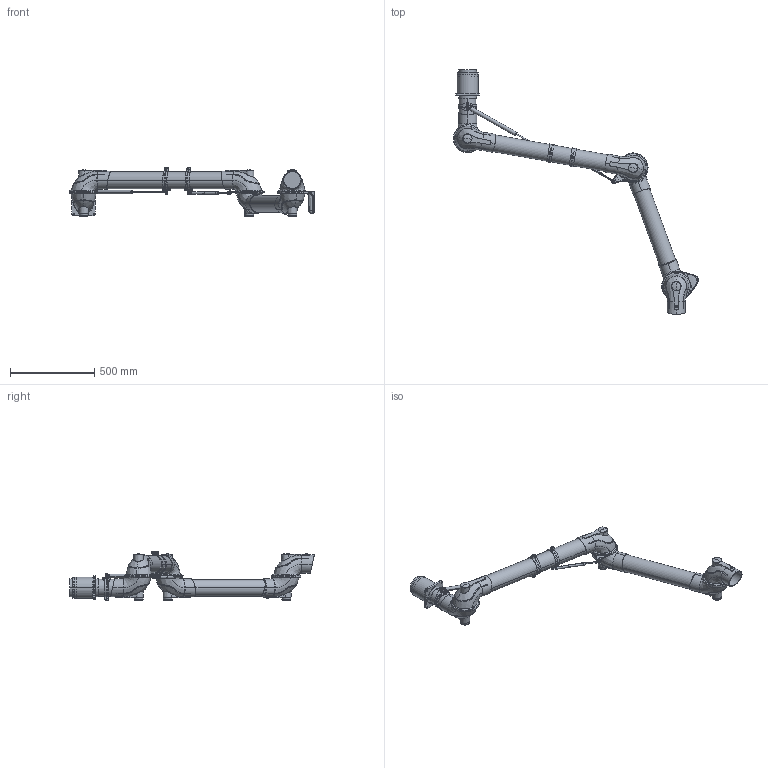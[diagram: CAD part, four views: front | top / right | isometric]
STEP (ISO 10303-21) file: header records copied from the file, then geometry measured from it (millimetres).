
FILE_DESCRIPTION((''),'2;1');
FILE_NAME('100333','2015-01-09T',('Tomas Bellgran'),(''),'PRO/ENGINEER BY PARAMETRIC TECHNOLOGY CORPORATION, 2013410','PRO/ENGINEER BY PARAMETRIC TECHNOLOGY CORPORATION, 2013410','');
FILE_SCHEMA(('AUTOMOTIVE_DESIGN { 1 0 10303 214 1 1 1 1 }'));
Length unit declared in the file: millimetre
Products named in the file (42): 100945; 100252; 100940; 100935; 100249; 100001; 100188; 100190; 9900420; 100328; 100003; 9900055; 100259; 100280; 100002; 100274; 100002_AF13; 100291; 100001_AF8; 105-5481; 101156; 105-5810; 102135; 102086; 100827; 101106; 100990; 100010; 100337; GAS_SPRING_BANBACH_CYLB; GAS_SPRING_BANBACH-TUBE_AF10; 100344; 9903861; LOCK_NUT_M8_DIN985; LOCK_NUT_M8_DIN985_PL; 100107; GAS_SPRING_BANBACH_ROD; GAS_SPRING_BANBACH_RODHEAD; 100344-REF; 102116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
Assembly tree (53 placements, depth 4):
  100333
    100328
      100945
      100252
      100940
      100935  x2
      100249
      100001
      100190
        100188
      9900420
    100259
      100001  x2
      100003
      100190  x2
        100188
      9900420
      9900055
    100274
      100280
      100002
    102086
      100002_AF13
      100291
      100001_AF8
      101156
        105-5481
      102135  x2
        105-5810
    100990
      100827
      101106
    100010
    100337
    100344
      GAS_SPRING_BANBACH_CYLB
      GAS_SPRING_BANBACH-TUBE_AF10
    9903861  x3
    100107  x2
      LOCK_NUT_M8_DIN985
      LOCK_NUT_M8_DIN985_PL
    100344-REF
      GAS_SPRING_BANBACH_ROD
      GAS_SPRING_BANBACH_RODHEAD
    102116
    102116-REF
    101156  x2
      105-5481
Bounding box: 1458.51 x 1454.9 x 294.37 mm (x, y, z)
Volume: 26750149.3 mm3; surface area: 1942571.3 mm2
Topology: 44 solids, 49 shells, 1785 faces, 4426 edges, 2747 vertices
Faces by surface type: plane 540, bspline 484, cylinder 373, cone 210, torus 118, sphere 43, extrusion 12, revolution 5
Entity records: 86863 total; most frequent: CARTESIAN_POINT 34540, ORIENTED_EDGE 6040, DIRECTION 5232, PRESENTATION_STYLE_ASSIGNMENT 3121, STYLED_ITEM 3121, EDGE_CURVE 3020, CURVE_STYLE 2233, AXIS2_PLACEMENT_3D 2098
